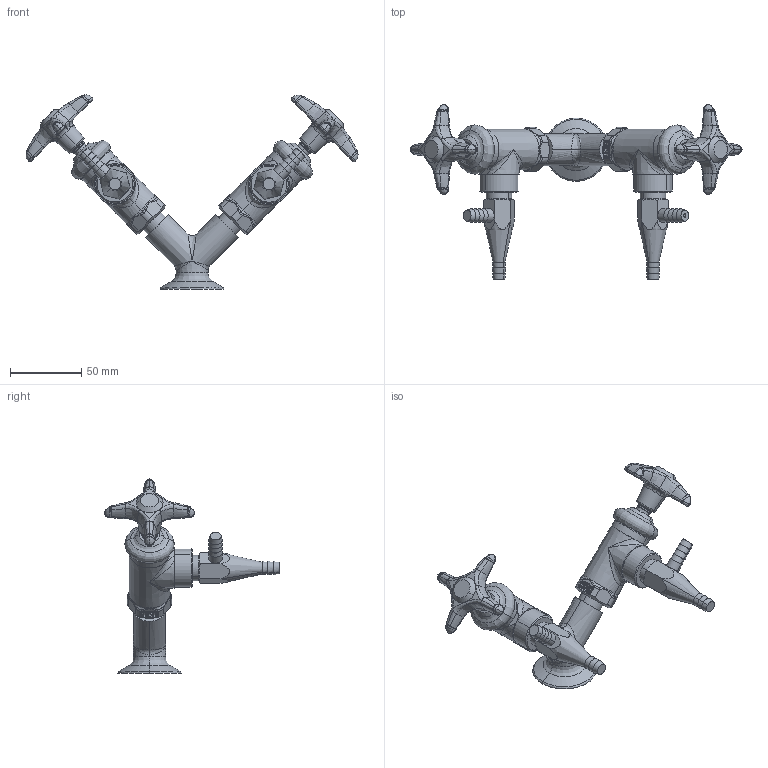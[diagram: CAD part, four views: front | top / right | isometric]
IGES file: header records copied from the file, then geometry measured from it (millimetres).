
Start section:  PTC IGES file: LWV2-C34-60.igs
Global section: file name: LWV2-C34-60.igs; native system: Creo Parametric by PTC Inc.; preprocessor: 2014500; author: usch_engrender; organization: Unknown; date: 20151118.123945; units: inch
Bounding box: 233.61 x 123.15 x 136.58 mm (x, y, z)
Volume: 204534.1 mm3; surface area: 46978.4 mm2
Topology: 1 solids, 7 shells, 906 faces, 2058 edges, 1203 vertices
Faces by surface type: bspline 526, revolution 380
